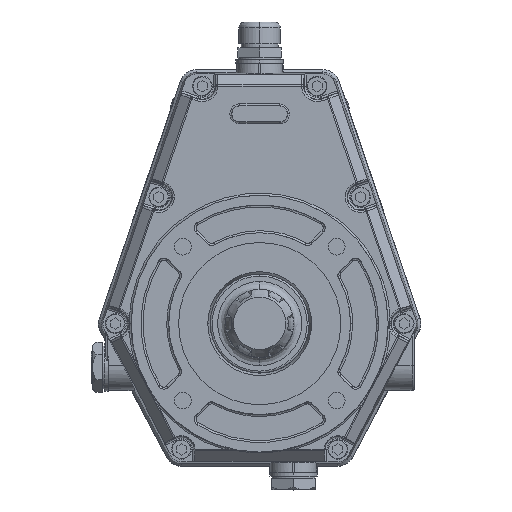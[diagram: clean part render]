
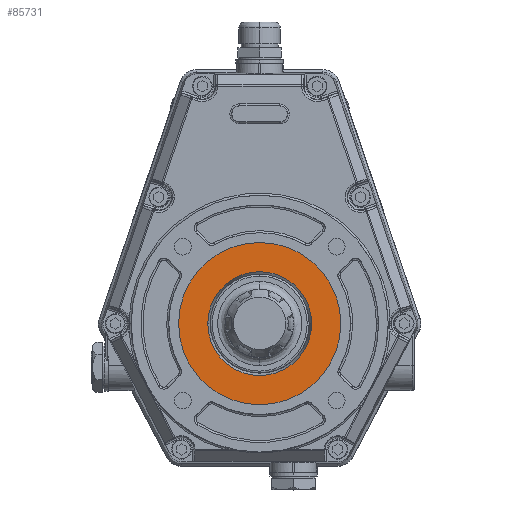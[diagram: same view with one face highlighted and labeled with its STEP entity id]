
A CAD part, top view. The second image highlights one B-rep face of the part: STEP entity #85731.
In plain terms, the highlighted planar face has unit normal (0, 0, 1).
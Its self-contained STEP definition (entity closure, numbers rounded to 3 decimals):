
#420 = DIRECTION ( 'NONE',  ( 0., 0., 1. ) ) ;
#1106 = FACE_BOUND ( 'NONE', #81042, .T. ) ;
#2227 = DIRECTION ( 'NONE',  ( -1., 0., 0. ) ) ;
#6884 = AXIS2_PLACEMENT_3D ( 'NONE', #35073, #420, #33430 ) ;
#7358 = ORIENTED_EDGE ( 'NONE', *, *, #78382, .F. ) ;
#11510 = AXIS2_PLACEMENT_3D ( 'NONE', #19285, #55047, #2227 ) ;
#15085 = CARTESIAN_POINT ( 'NONE',  ( -41., 0., 50.5 ) ) ;
#18037 = CARTESIAN_POINT ( 'NONE',  ( 0., 0., 50.5 ) ) ;
#19285 = CARTESIAN_POINT ( 'NONE',  ( 0., 41., 50.5 ) ) ;
#28035 = VERTEX_POINT ( 'NONE', #107314 ) ;
#28238 = DIRECTION ( 'NONE',  ( 1., 0., 0. ) ) ;
#29850 = CIRCLE ( 'NONE', #57101, 41. ) ;
#33430 = DIRECTION ( 'NONE',  ( 1., 0., 0. ) ) ;
#34038 = CIRCLE ( 'NONE', #6884, 26.25 ) ;
#35073 = CARTESIAN_POINT ( 'NONE',  ( 0., 0., 50.5 ) ) ;
#51674 = EDGE_CURVE ( 'NONE', #85655, #28035, #100272, .T. ) ;
#55047 = DIRECTION ( 'NONE',  ( 0., 0., -1. ) ) ;
#57101 = AXIS2_PLACEMENT_3D ( 'NONE', #90504, #88815, #63843 ) ;
#61448 = ORIENTED_EDGE ( 'NONE', *, *, #78938, .F. ) ;
#63561 = PLANE ( 'NONE',  #11510 ) ;
#63843 = DIRECTION ( 'NONE',  ( 1., 0., 0. ) ) ;
#67738 = AXIS2_PLACEMENT_3D ( 'NONE', #106636, #95869, #79433 ) ;
#71381 = DIRECTION ( 'NONE',  ( 0., 0., -1. ) ) ;
#75229 = CIRCLE ( 'NONE', #80638, 41. ) ;
#77237 = VERTEX_POINT ( 'NONE', #15085 ) ;
#78382 = EDGE_CURVE ( 'NONE', #104168, #77237, #29850, .T. ) ;
#78938 = EDGE_CURVE ( 'NONE', #77237, #104168, #75229, .T. ) ;
#79433 = DIRECTION ( 'NONE',  ( 1., 0., 0. ) ) ;
#79467 = FACE_OUTER_BOUND ( 'NONE', #89705, .T. ) ;
#80638 = AXIS2_PLACEMENT_3D ( 'NONE', #18037, #71381, #28238 ) ;
#81042 = EDGE_LOOP ( 'NONE', ( #102915, #104887 ) ) ;
#85655 = VERTEX_POINT ( 'NONE', #88530 ) ;
#85731 = ADVANCED_FACE ( 'NONE', ( #79467, #1106 ), #63561, .F. ) ;
#87697 = CARTESIAN_POINT ( 'NONE',  ( 41., 0., 50.5 ) ) ;
#88530 = CARTESIAN_POINT ( 'NONE',  ( 26.25, 0., 50.5 ) ) ;
#88815 = DIRECTION ( 'NONE',  ( 0., 0., -1. ) ) ;
#89705 = EDGE_LOOP ( 'NONE', ( #7358, #61448 ) ) ;
#90504 = CARTESIAN_POINT ( 'NONE',  ( 0., 0., 50.5 ) ) ;
#93170 = EDGE_CURVE ( 'NONE', #28035, #85655, #34038, .T. ) ;
#95869 = DIRECTION ( 'NONE',  ( 0., 0., 1. ) ) ;
#100272 = CIRCLE ( 'NONE', #67738, 26.25 ) ;
#102915 = ORIENTED_EDGE ( 'NONE', *, *, #51674, .F. ) ;
#104168 = VERTEX_POINT ( 'NONE', #87697 ) ;
#104887 = ORIENTED_EDGE ( 'NONE', *, *, #93170, .F. ) ;
#106636 = CARTESIAN_POINT ( 'NONE',  ( 0., 0., 50.5 ) ) ;
#107314 = CARTESIAN_POINT ( 'NONE',  ( -26.25, 0., 50.5 ) ) ;
